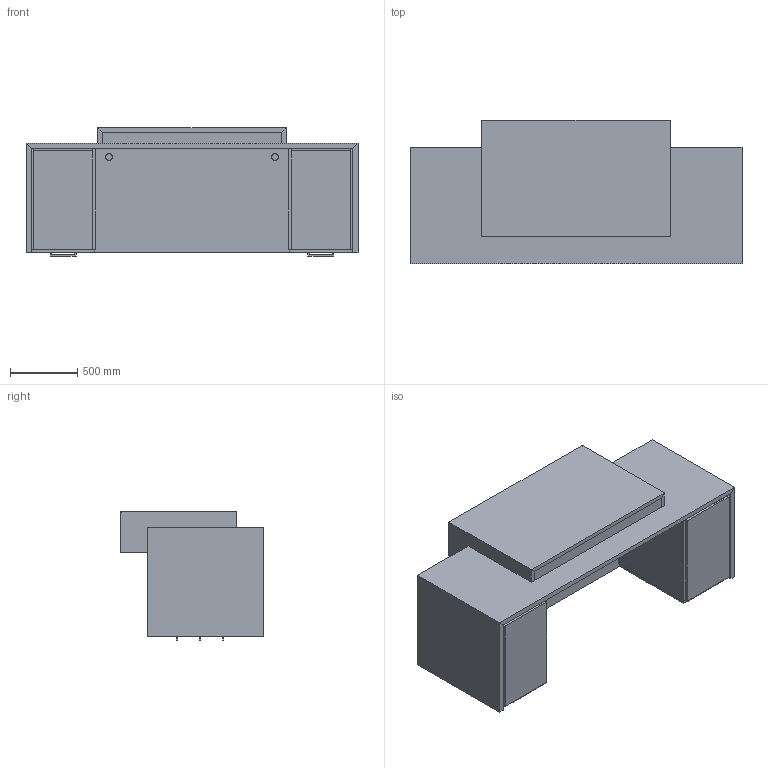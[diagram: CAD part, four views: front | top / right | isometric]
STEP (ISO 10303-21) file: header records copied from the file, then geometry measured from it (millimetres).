
FILE_DESCRIPTION(/* description */ ('','CAx-IF Rec.Pracs.---Representation and Presentation of Product Manufacturing Information (PMI)---4.0---2014-10-13'),/* implementation_level */ '2;1');
FILE_NAME(/* name */ 'RECEPTION_SALUTE 1.stp',/* time_stamp */ '2024-12-07T19:01:43-05:00',/* author */ ('mbowman'),/* organization */ (''),/* preprocessor_version */ 'ST-DEVELOPER v19.2',/* originating_system */ 'Autodesk Inventor 2023',/* authorisation */ '');
FILE_SCHEMA (('AP242_MANAGED_MODEL_BASED_3D_ENGINEERING_MIM_LF { 1 0 10303 442 1 1 4 }'));
Length unit declared in the file: inch
Products named in the file (4): SALUTE^ADMIN 1_STRAIGHT TRANS-SOLID ASSEMBLY; SALUTE^ADMIN_32x97 BASE-PARTS SOLID; SALUTE^ADMIN_34x55 STRAIGHT TRANS-PARTS SOLID; HAFELE 102.12.004-7_5 INCH
Assembly tree (6 placements, depth 2):
  SALUTE^ADMIN 1_STRAIGHT TRANS-SOLID ASSEMBLY
    SALUTE^ADMIN_32x97 BASE-PARTS SOLID
    SALUTE^ADMIN_34x55 STRAIGHT TRANS-PARTS SOLID
    HAFELE 102.12.004-7_5 INCH  x4
Bounding box: 2463.8 x 1066.8 x 951.87 mm (x, y, z)
Volume: 362487759.6 mm3; surface area: 26204133.1 mm2
Topology: 28 solids, 28 shells, 198 faces, 426 edges, 284 vertices
Faces by surface type: plane 196, cylinder 2
Full cylindrical faces by diameter (mm): 48.26 x2
Entity records: 5583 total; most frequent: CARTESIAN_POINT 1175, DIRECTION 740, ORIENTED_EDGE 708, EDGE_CURVE 354, LINE 350, VECTOR 350, STYLED_ITEM 271, VERTEX_POINT 236
